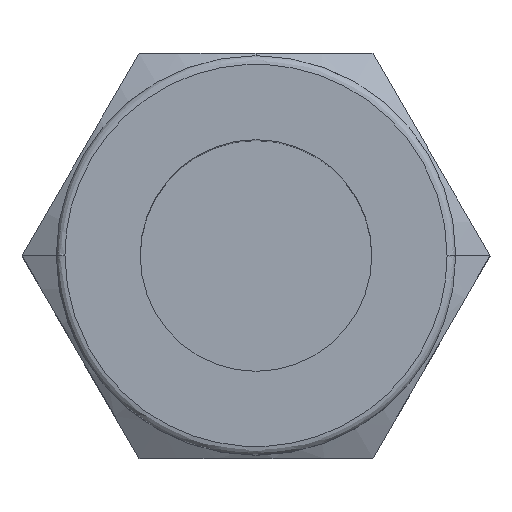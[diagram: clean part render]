
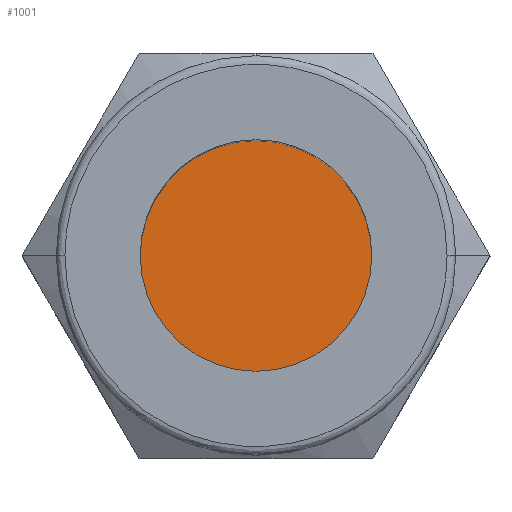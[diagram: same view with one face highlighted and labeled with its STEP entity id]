
A CAD part, top view. The second image highlights one B-rep face of the part: STEP entity #1001.
In plain terms, the highlighted planar face has unit normal (0, 0, 1).
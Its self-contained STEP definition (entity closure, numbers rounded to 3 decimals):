
#56 = CIRCLE ( 'NONE', #997, 4. ) ;
#59 = AXIS2_PLACEMENT_3D ( 'NONE', #1093, #1063, #1615 ) ;
#126 = CARTESIAN_POINT ( 'NONE',  ( -4., 0., 8.4 ) ) ;
#376 = FACE_OUTER_BOUND ( 'NONE', #1005, .T. ) ;
#404 = EDGE_CURVE ( 'NONE', #999, #1478, #1059, .T. ) ;
#941 = DIRECTION ( 'NONE',  ( 1., 0., 0. ) ) ;
#946 = DIRECTION ( 'NONE',  ( 0., 0., 1. ) ) ;
#947 = CARTESIAN_POINT ( 'NONE',  ( 4.5, -4.5, 8.4 ) ) ;
#965 = CARTESIAN_POINT ( 'NONE',  ( 4., 0., 8.4 ) ) ;
#997 = AXIS2_PLACEMENT_3D ( 'NONE', #1605, #1393, #1381 ) ;
#999 = VERTEX_POINT ( 'NONE', #965 ) ;
#1001 = ADVANCED_FACE ( '12', ( #376 ), #1242, .T. ) ;
#1005 = EDGE_LOOP ( 'NONE', ( #1675, #1363 ) ) ;
#1059 = CIRCLE ( 'NONE', #59, 4. ) ;
#1063 = DIRECTION ( 'NONE',  ( 0., 0., 1. ) ) ;
#1093 = CARTESIAN_POINT ( 'NONE',  ( 0., 0., 8.4 ) ) ;
#1157 = AXIS2_PLACEMENT_3D ( 'NONE', #947, #946, #941 ) ;
#1242 = PLANE ( 'NONE',  #1157 ) ;
#1363 = ORIENTED_EDGE ( 'NONE', *, *, #1637, .T. ) ;
#1381 = DIRECTION ( 'NONE',  ( 1., 0., 0. ) ) ;
#1393 = DIRECTION ( 'NONE',  ( 0., 0., 1. ) ) ;
#1478 = VERTEX_POINT ( 'NONE', #126 ) ;
#1605 = CARTESIAN_POINT ( 'NONE',  ( 0., 0., 8.4 ) ) ;
#1615 = DIRECTION ( 'NONE',  ( 1., 0., 0. ) ) ;
#1637 = EDGE_CURVE ( 'NONE', #1478, #999, #56, .T. ) ;
#1675 = ORIENTED_EDGE ( 'NONE', *, *, #404, .T. ) ;
